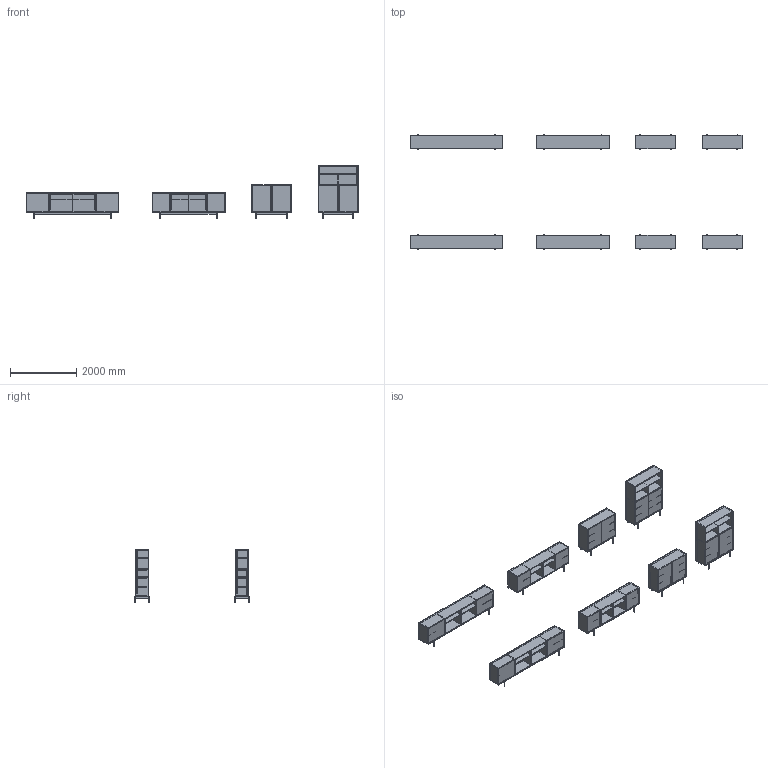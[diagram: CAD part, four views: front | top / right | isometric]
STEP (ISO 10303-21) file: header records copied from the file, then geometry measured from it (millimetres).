
FILE_DESCRIPTION(/* description */ (''),/* implementation_level */ '2;1');
FILE_NAME(/* name */ 'TRUE_Blade Cabinet_3D',/* time_stamp */ '2026-09-29T17:28:30+02:00',/* author */ (''),/* organization */ (''),/* preprocessor_version */ 'ST-DEVELOPER v16.5',/* originating_system */ '',/* authorisation */ '');
FILE_SCHEMA (('CONFIG_CONTROL_DESIGN'));
Length unit declared in the file: millimetre
Products named in the file (1): Document
Bounding box: 10000 x 3458.08 x 1593.5 mm (x, y, z)
Volume: 1391863788 mm3; surface area: 154985955.3 mm2
Topology: 270 solids, 270 shells, 1676 faces, 3320 edges, 2224 vertices
Faces by surface type: plane 1460, cylinder 216
Entity records: 37535 total; most frequent: CARTESIAN_POINT 11911, ORIENTED_EDGE 6624, EDGE_CURVE 3312, B_SPLINE_CURVE_WITH_KNOTS 2724, VERTEX_POINT 2208, EDGE_LOOP 1708, DIRECTION 1682, AXIS2_PLACEMENT_3D 1679
